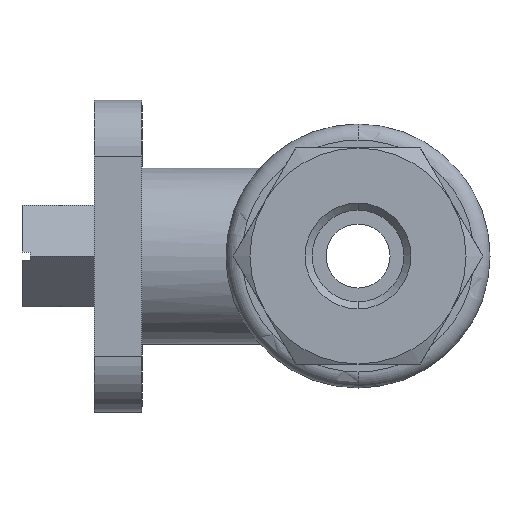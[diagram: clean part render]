
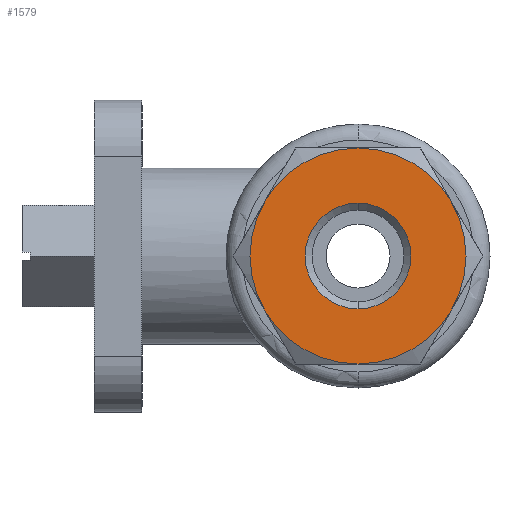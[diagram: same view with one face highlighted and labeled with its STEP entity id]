
A CAD part, left-side view. The second image highlights one B-rep face of the part: STEP entity #1579.
In plain terms, the highlighted planar face has unit normal (-1, 0, 0).
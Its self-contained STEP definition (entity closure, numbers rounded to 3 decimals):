
#319 = CARTESIAN_POINT ( 'NONE',  ( -33.5, 0., 0. ) ) ;
#320 = DIRECTION ( 'NONE',  ( -1., 0., 0. ) ) ;
#321 = DIRECTION ( 'NONE',  ( 0., 0., 1. ) ) ;
#775 = CARTESIAN_POINT ( 'NONE',  ( -33.5, 15.588, 0. ) ) ;
#788 = PLANE ( 'NONE',  #1861 ) ;
#789 = DIRECTION ( 'NONE',  ( 1., 0., 0. ) ) ;
#790 = DIRECTION ( 'NONE',  ( 0., 0., -1. ) ) ;
#1099 = CARTESIAN_POINT ( 'NONE',  ( -33.5, 0., 0. ) ) ;
#1123 = CARTESIAN_POINT ( 'NONE',  ( -33.5, 0., 0. ) ) ;
#1124 = DIRECTION ( 'NONE',  ( -1., 0., 0. ) ) ;
#1125 = DIRECTION ( 'NONE',  ( 0., 0., 1. ) ) ;
#1126 = CARTESIAN_POINT ( 'NONE',  ( -33.5, 0., 0. ) ) ;
#1127 = CARTESIAN_POINT ( 'NONE',  ( -33.5, 0., 0. ) ) ;
#1128 = DIRECTION ( 'NONE',  ( -1., 0., 0. ) ) ;
#1129 = DIRECTION ( 'NONE',  ( 0., 0., 1. ) ) ;
#1134 = CARTESIAN_POINT ( 'NONE',  ( -33.5, 0., 0. ) ) ;
#1135 = DIRECTION ( 'NONE',  ( -1., 0., 0. ) ) ;
#1136 = DIRECTION ( 'NONE',  ( 0., 0., 1. ) ) ;
#1137 = CARTESIAN_POINT ( 'NONE',  ( -33.5, 0., 0. ) ) ;
#1138 = DIRECTION ( 'NONE',  ( -1., 0., 0. ) ) ;
#1139 = DIRECTION ( 'NONE',  ( 0., 0., 1. ) ) ;
#1140 = CARTESIAN_POINT ( 'NONE',  ( -33.5, 0., 0. ) ) ;
#1141 = DIRECTION ( 'NONE',  ( -1., 0., 0. ) ) ;
#1142 = DIRECTION ( 'NONE',  ( 0., 0., 1. ) ) ;
#1144 = DIRECTION ( 'NONE',  ( -1., 0., 0. ) ) ;
#1145 = DIRECTION ( 'NONE',  ( 0., 0., 1. ) ) ;
#1147 = DIRECTION ( 'NONE',  ( -1., 0., 0. ) ) ;
#1148 = DIRECTION ( 'NONE',  ( 0., 0., 1. ) ) ;
#1453 = EDGE_CURVE ( 'NONE', #3743, #3746, #2973, .T. ) ;
#1579 = ADVANCED_FACE ( 'NONE', ( #3128, #3129 ), #788, .F. ) ;
#1663 = EDGE_CURVE ( 'NONE', #3793, #3844, #3290, .T. ) ;
#1664 = EDGE_CURVE ( 'NONE', #3848, #3818, #3291, .T. ) ;
#1667 = EDGE_CURVE ( 'NONE', #3816, #3793, #3295, .T. ) ;
#1668 = EDGE_CURVE ( 'NONE', #3844, #3848, #3297, .T. ) ;
#1669 = EDGE_CURVE ( 'NONE', #3746, #3743, #3299, .T. ) ;
#1670 = EDGE_CURVE ( 'NONE', #3832, #3816, #3301, .T. ) ;
#1671 = EDGE_CURVE ( 'NONE', #3818, #3832, #3303, .T. ) ;
#1783 = AXIS2_PLACEMENT_3D ( 'NONE', #319, #320, #321 ) ;
#1861 = AXIS2_PLACEMENT_3D ( 'NONE', #775, #789, #790 ) ;
#1922 = AXIS2_PLACEMENT_3D ( 'NONE', #1099, #1124, #1125 ) ;
#2006 = AXIS2_PLACEMENT_3D ( 'NONE', #1126, #1128, #1129 ) ;
#2007 = AXIS2_PLACEMENT_3D ( 'NONE', #1127, #1138, #1139 ) ;
#2008 = AXIS2_PLACEMENT_3D ( 'NONE', #1123, #1135, #1136 ) ;
#2009 = AXIS2_PLACEMENT_3D ( 'NONE', #1134, #1141, #1142 ) ;
#2010 = AXIS2_PLACEMENT_3D ( 'NONE', #1137, #1144, #1145 ) ;
#2011 = AXIS2_PLACEMENT_3D ( 'NONE', #1140, #1147, #1148 ) ;
#2163 = CARTESIAN_POINT ( 'NONE',  ( -33.5, 0., -6.604 ) ) ;
#2166 = CARTESIAN_POINT ( 'NONE',  ( -33.5, 0., 6.604 ) ) ;
#2213 = CARTESIAN_POINT ( 'NONE',  ( -33.5, -11.691, -6.75 ) ) ;
#2236 = CARTESIAN_POINT ( 'NONE',  ( -33.5, 0., -13.5 ) ) ;
#2238 = CARTESIAN_POINT ( 'NONE',  ( -33.5, 11.691, 6.75 ) ) ;
#2252 = CARTESIAN_POINT ( 'NONE',  ( -33.5, 11.691, -6.75 ) ) ;
#2264 = CARTESIAN_POINT ( 'NONE',  ( -33.5, -11.691, 6.75 ) ) ;
#2268 = CARTESIAN_POINT ( 'NONE',  ( -33.5, 0., 13.5 ) ) ;
#2673 = EDGE_LOOP ( 'NONE', ( #3625, #3626 ) ) ;
#2680 = EDGE_LOOP ( 'NONE', ( #3627, #3628, #3629, #3630, #3631, #3506 ) ) ;
#2973 = CIRCLE ( 'NONE', #1783, 6.604 ) ;
#3128 = FACE_BOUND ( 'NONE', #2673, .T. ) ;
#3129 = FACE_OUTER_BOUND ( 'NONE', #2680, .T. ) ;
#3290 = CIRCLE ( 'NONE', #1922, 13.5 ) ;
#3291 = CIRCLE ( 'NONE', #2006, 13.5 ) ;
#3295 = CIRCLE ( 'NONE', #2008, 13.5 ) ;
#3297 = CIRCLE ( 'NONE', #2007, 13.5 ) ;
#3299 = CIRCLE ( 'NONE', #2009, 6.604 ) ;
#3301 = CIRCLE ( 'NONE', #2010, 13.5 ) ;
#3303 = CIRCLE ( 'NONE', #2011, 13.5 ) ;
#3506 = ORIENTED_EDGE ( 'NONE', *, *, #1671, .T. ) ;
#3625 = ORIENTED_EDGE ( 'NONE', *, *, #1669, .F. ) ;
#3626 = ORIENTED_EDGE ( 'NONE', *, *, #1453, .F. ) ;
#3627 = ORIENTED_EDGE ( 'NONE', *, *, #1670, .T. ) ;
#3628 = ORIENTED_EDGE ( 'NONE', *, *, #1667, .T. ) ;
#3629 = ORIENTED_EDGE ( 'NONE', *, *, #1663, .T. ) ;
#3630 = ORIENTED_EDGE ( 'NONE', *, *, #1668, .T. ) ;
#3631 = ORIENTED_EDGE ( 'NONE', *, *, #1664, .T. ) ;
#3743 = VERTEX_POINT ( 'NONE', #2163 ) ;
#3746 = VERTEX_POINT ( 'NONE', #2166 ) ;
#3793 = VERTEX_POINT ( 'NONE', #2213 ) ;
#3816 = VERTEX_POINT ( 'NONE', #2236 ) ;
#3818 = VERTEX_POINT ( 'NONE', #2238 ) ;
#3832 = VERTEX_POINT ( 'NONE', #2252 ) ;
#3844 = VERTEX_POINT ( 'NONE', #2264 ) ;
#3848 = VERTEX_POINT ( 'NONE', #2268 ) ;
